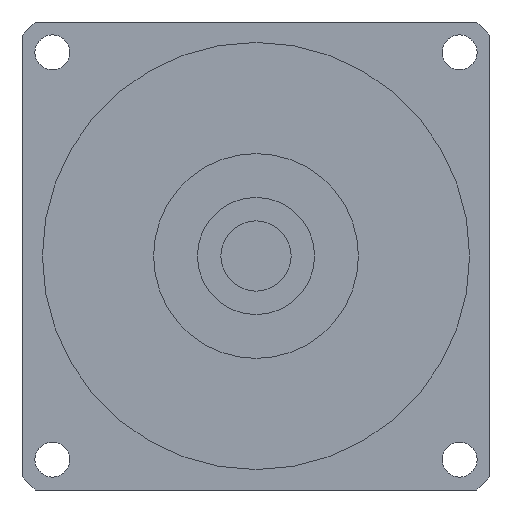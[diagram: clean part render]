
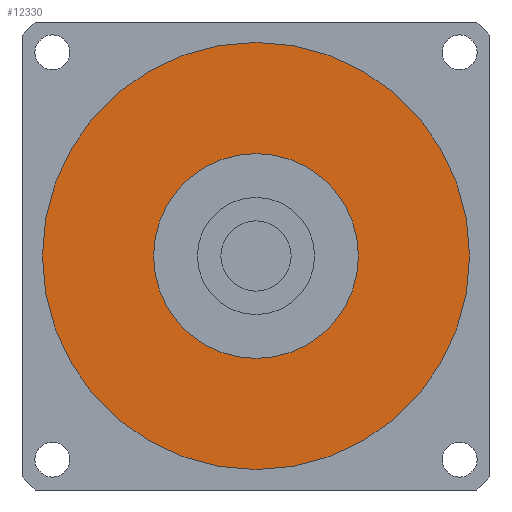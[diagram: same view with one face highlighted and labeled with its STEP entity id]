
A CAD part, left-side view. The second image highlights one B-rep face of the part: STEP entity #12330.
In plain terms, the highlighted planar face has unit normal (-1, 0, 0) as drawn and (0, 0, -1) by its records, which use the part's own axes.
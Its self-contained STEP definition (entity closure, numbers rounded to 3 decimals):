
#11900=CARTESIAN_POINT('',(0.,0.,
-88.5));
#11910=DIRECTION('',(0.,0.,1.));
#11920=DIRECTION('',(-1.,0.,0.));
#11930=AXIS2_PLACEMENT_3D('',#11900,#11910,#11920);
#11940=PLANE('',#11930);
#11950=CARTESIAN_POINT('',(0.,0.,
-88.5));
#11960=DIRECTION('',(0.,0.,1.));
#11970=DIRECTION('',(0.,-1.,0.));
#11980=AXIS2_PLACEMENT_3D('',#11950,#11960,#11970);
#11990=CIRCLE('',#11980,36.51);
#12000=CARTESIAN_POINT('',(0.,-36.51,-88.5));
#12010=VERTEX_POINT('',#12000);
#12020=CARTESIAN_POINT('',(36.51,0.,-88.5));
#12030=VERTEX_POINT('',#12020);
#12040=EDGE_CURVE('',#12010,#12030,#11990,.T.);
#12050=ORIENTED_EDGE('',*,*,#12040,.F.);
#12060=CARTESIAN_POINT('',(-36.51,0.,-88.5));
#12070=VERTEX_POINT('',#12060);
#12080=EDGE_CURVE('',#12030,#12070,#11990,.T.);
#12090=ORIENTED_EDGE('',*,*,#12080,.F.);
#12100=EDGE_CURVE('',#12070,#12010,#11990,.T.);
#12110=ORIENTED_EDGE('',*,*,#12100,.F.);
#12120=EDGE_LOOP('',(#12110,#12090,#12050));
#12130=FACE_OUTER_BOUND('',#12120,.T.);
#12140=CARTESIAN_POINT('',(0.,0.,
-88.5));
#12150=DIRECTION('',(0.,0.,1.));
#12160=DIRECTION('',(0.,-1.,0.));
#12170=AXIS2_PLACEMENT_3D('',#12140,#12150,#12160);
#12180=CIRCLE('',#12170,17.5);
#12190=CARTESIAN_POINT('',(17.5,0.,-88.5));
#12200=VERTEX_POINT('',#12190);
#12210=CARTESIAN_POINT('',(-17.5,0.,-88.5));
#12220=VERTEX_POINT('',#12210);
#12230=EDGE_CURVE('',#12200,#12220,#12180,.T.);
#12240=ORIENTED_EDGE('',*,*,#12230,.T.);
#12250=CARTESIAN_POINT('',(0.,-17.5,-88.5));
#12260=VERTEX_POINT('',#12250);
#12270=EDGE_CURVE('',#12260,#12200,#12180,.T.);
#12280=ORIENTED_EDGE('',*,*,#12270,.T.);
#12290=EDGE_CURVE('',#12220,#12260,#12180,.T.);
#12300=ORIENTED_EDGE('',*,*,#12290,.T.);
#12310=EDGE_LOOP('',(#12300,#12280,#12240));
#12320=FACE_BOUND('',#12310,.T.);
#12330=ADVANCED_FACE('',(#12130,#12320),#11940,.F.);
